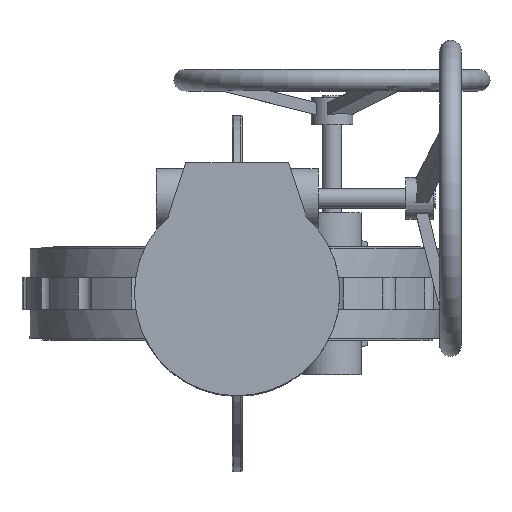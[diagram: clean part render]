
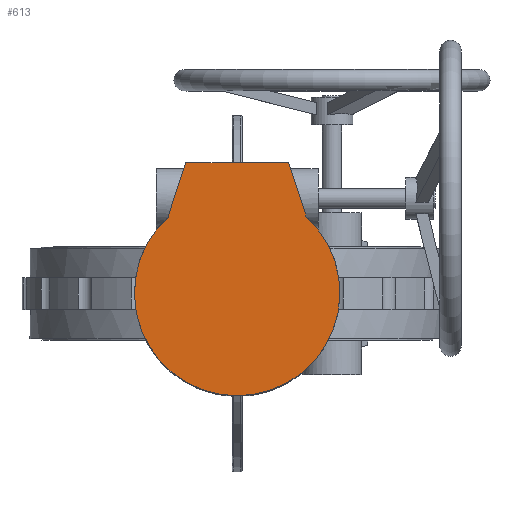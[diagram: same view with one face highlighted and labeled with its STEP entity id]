
A CAD part, top view. The second image highlights one B-rep face of the part: STEP entity #613.
In plain terms, the highlighted planar face has unit normal (0, 0, 1) as drawn and (0, 0, -1) by its records, which use the part's own axes.
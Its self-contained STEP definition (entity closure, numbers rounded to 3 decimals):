
#613 = ADVANCED_FACE( '', ( #1389 ), #1390, .F. );
#1389 = FACE_OUTER_BOUND( '', #3125, .T. );
#1390 = PLANE( '', #3126 );
#3125 = EDGE_LOOP( '', ( #5783, #5784, #5785, #5786 ) );
#3126 = AXIS2_PLACEMENT_3D( '', #5787, #5788, #5789 );
#5783 = ORIENTED_EDGE( '', *, *, #8135, .F. );
#5784 = ORIENTED_EDGE( '', *, *, #8079, .F. );
#5785 = ORIENTED_EDGE( '', *, *, #7611, .F. );
#5786 = ORIENTED_EDGE( '', *, *, #8136, .F. );
#5787 = CARTESIAN_POINT( '', ( 0., 0., 0. ) );
#5788 = DIRECTION( '', ( 0., 0., 1. ) );
#5789 = DIRECTION( '', ( 1., 0., 0. ) );
#7611 = EDGE_CURVE( '', #8822, #8816, #8824, .T. );
#8079 = EDGE_CURVE( '', #8816, #9581, #9582, .T. );
#8135 = EDGE_CURVE( '', #9581, #9662, #9663, .T. );
#8136 = EDGE_CURVE( '', #9662, #8822, #9664, .T. );
#8816 = VERTEX_POINT( '', #11588 );
#8822 = VERTEX_POINT( '', #11596 );
#8824 = LINE( '', #11599, #11600 );
#9581 = VERTEX_POINT( '', #14921 );
#9582 = CIRCLE( '', #14922, 130. );
#9662 = VERTEX_POINT( '', #15288 );
#9663 = LINE( '', #15289, #15290 );
#9664 = LINE( '', #15291, #15292 );
#11588 = CARTESIAN_POINT( '', ( 96.144, 87.5, 0. ) );
#11596 = CARTESIAN_POINT( '', ( 165., 65., 0. ) );
#11599 = CARTESIAN_POINT( '', ( 165., 65., 0. ) );
#11600 = VECTOR( '', #17092, 1000. );
#14921 = CARTESIAN_POINT( '', ( 96.144, -87.5, 0. ) );
#14922 = AXIS2_PLACEMENT_3D( '', #17562, #17563, #17564 );
#15288 = CARTESIAN_POINT( '', ( 165., -65., 0. ) );
#15289 = CARTESIAN_POINT( '', ( 165., -65., 0. ) );
#15290 = VECTOR( '', #17624, 1000. );
#15291 = CARTESIAN_POINT( '', ( 165., -65., 0. ) );
#15292 = VECTOR( '', #17625, 1000. );
#17092 = DIRECTION( '', ( -0.951, 0.311, 0. ) );
#17562 = CARTESIAN_POINT( '', ( 0., 0., 0. ) );
#17563 = DIRECTION( '', ( 0., 0., 1. ) );
#17564 = DIRECTION( '', ( 1., 0., 0. ) );
#17624 = DIRECTION( '', ( 0.951, 0.311, 0. ) );
#17625 = DIRECTION( '', ( 0., 1., 0. ) );
